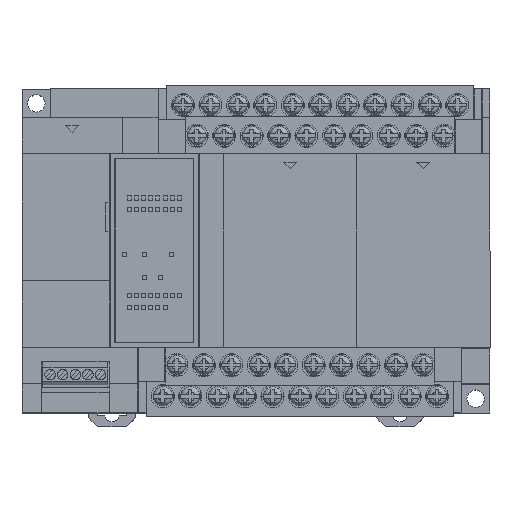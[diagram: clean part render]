
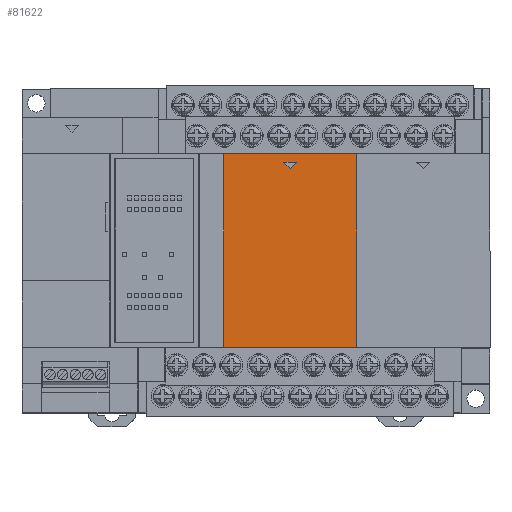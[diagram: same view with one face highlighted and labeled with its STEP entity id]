
A CAD part, top view. The second image highlights one B-rep face of the part: STEP entity #81622.
In plain terms, the highlighted planar face has unit normal (0, 0, 1).
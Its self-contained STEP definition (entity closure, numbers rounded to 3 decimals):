
#30429 = CARTESIAN_POINT ( 'NONE',  ( 0., 22.8, 5. ) ) ;
#30433 = DIRECTION ( 'NONE',  ( -0.707, -0.707, 0. ) ) ;
#30434 = VECTOR ( 'NONE', #30433, 1000. ) ;
#30435 = CARTESIAN_POINT ( 'NONE',  ( 1.8, 24.6, 5. ) ) ;
#30441 = LINE ( 'NONE', #30435, #30434 ) ;
#30486 = CARTESIAN_POINT ( 'NONE',  ( -1.8, 24.6, 5. ) ) ;
#30498 = CARTESIAN_POINT ( 'NONE',  ( 0., 24.6, 5. ) ) ;
#30501 = LINE ( 'NONE', #30498, #30657 ) ;
#30574 = LINE ( 'NONE', #30593, #30745 ) ;
#30593 = CARTESIAN_POINT ( 'NONE',  ( 0., 22.8, 5. ) ) ;
#30656 = DIRECTION ( 'NONE',  ( 1., 0., 0. ) ) ;
#30657 = VECTOR ( 'NONE', #30656, 1000. ) ;
#30743 = DIRECTION ( 'NONE',  ( -0.707, 0.707, 0. ) ) ;
#30745 = VECTOR ( 'NONE', #30743, 1000. ) ;
#30748 = CARTESIAN_POINT ( 'NONE',  ( 1.8, 24.6, 5. ) ) ;
#31220 = DIRECTION ( 'NONE',  ( 0., 1., 0. ) ) ;
#31221 = VECTOR ( 'NONE', #31220, 1000. ) ;
#31225 = DIRECTION ( 'NONE',  ( 1., 0., 0. ) ) ;
#31227 = DIRECTION ( 'NONE',  ( 0., 0., 1. ) ) ;
#31229 = CARTESIAN_POINT ( 'NONE',  ( -18.5, -26.9, 5. ) ) ;
#31231 = AXIS2_PLACEMENT_3D ( 'NONE', #31229, #31227, #31225 ) ;
#31245 = FACE_BOUND ( 'NONE', #81630, .T. ) ;
#31249 = FACE_OUTER_BOUND ( 'NONE', #81624, .T. ) ;
#31252 = DIRECTION ( 'NONE',  ( -1., 0., 0. ) ) ;
#31255 = VECTOR ( 'NONE', #31252, 1000. ) ;
#31257 = CARTESIAN_POINT ( 'NONE',  ( 0., 26.9, 5. ) ) ;
#31258 = LINE ( 'NONE', #31257, #31255 ) ;
#31259 = PLANE ( 'NONE',  #31231 ) ;
#31267 = CARTESIAN_POINT ( 'NONE',  ( 18.5, 0., 5. ) ) ;
#31269 = LINE ( 'NONE', #31267, #31221 ) ;
#31329 = LINE ( 'NONE', #31445, #31441 ) ;
#31330 = DIRECTION ( 'NONE',  ( 1., 0., 0. ) ) ;
#31331 = VECTOR ( 'NONE', #31330, 1000. ) ;
#31332 = CARTESIAN_POINT ( 'NONE',  ( 0., -26.9, 5. ) ) ;
#31333 = LINE ( 'NONE', #31332, #31331 ) ;
#31341 = CARTESIAN_POINT ( 'NONE',  ( -18.5, 26.9, 5. ) ) ;
#31367 = CARTESIAN_POINT ( 'NONE',  ( -18.5, -26.9, 5. ) ) ;
#31391 = CARTESIAN_POINT ( 'NONE',  ( 18.5, 26.9, 5. ) ) ;
#31394 = CARTESIAN_POINT ( 'NONE',  ( 18.5, -26.9, 5. ) ) ;
#31440 = DIRECTION ( 'NONE',  ( 0., -1., 0. ) ) ;
#31441 = VECTOR ( 'NONE', #31440, 1000. ) ;
#31445 = CARTESIAN_POINT ( 'NONE',  ( -18.5, 0., 5. ) ) ;
#81455 = EDGE_CURVE ( 'NONE', #81532, #81457, #30441, .T. ) ;
#81457 = VERTEX_POINT ( 'NONE', #30429 ) ;
#81500 = EDGE_CURVE ( 'NONE', #81533, #81532, #30501, .T. ) ;
#81526 = EDGE_CURVE ( 'NONE', #81457, #81533, #30574, .T. ) ;
#81532 = VERTEX_POINT ( 'NONE', #30748 ) ;
#81533 = VERTEX_POINT ( 'NONE', #30486 ) ;
#81620 = EDGE_CURVE ( 'NONE', #81657, #81699, #31258, .T. ) ;
#81622 = ADVANCED_FACE ( 'NONE', ( #31245, #31249 ), #31259, .T. ) ;
#81623 = ORIENTED_EDGE ( 'NONE', *, *, #81500, .T. ) ;
#81624 = EDGE_LOOP ( 'NONE', ( #81629, #81684, #81636, #81689 ) ) ;
#81625 = ORIENTED_EDGE ( 'NONE', *, *, #81455, .T. ) ;
#81626 = EDGE_CURVE ( 'NONE', #81656, #81657, #31269, .T. ) ;
#81629 = ORIENTED_EDGE ( 'NONE', *, *, #81626, .T. ) ;
#81630 = EDGE_LOOP ( 'NONE', ( #81632, #81623, #81625 ) ) ;
#81632 = ORIENTED_EDGE ( 'NONE', *, *, #81526, .T. ) ;
#81636 = ORIENTED_EDGE ( 'NONE', *, *, #81688, .T. ) ;
#81656 = VERTEX_POINT ( 'NONE', #31394 ) ;
#81657 = VERTEX_POINT ( 'NONE', #31391 ) ;
#81684 = ORIENTED_EDGE ( 'NONE', *, *, #81620, .T. ) ;
#81686 = VERTEX_POINT ( 'NONE', #31367 ) ;
#81688 = EDGE_CURVE ( 'NONE', #81699, #81686, #31329, .T. ) ;
#81689 = ORIENTED_EDGE ( 'NONE', *, *, #81691, .T. ) ;
#81691 = EDGE_CURVE ( 'NONE', #81686, #81656, #31333, .T. ) ;
#81699 = VERTEX_POINT ( 'NONE', #31341 ) ;
